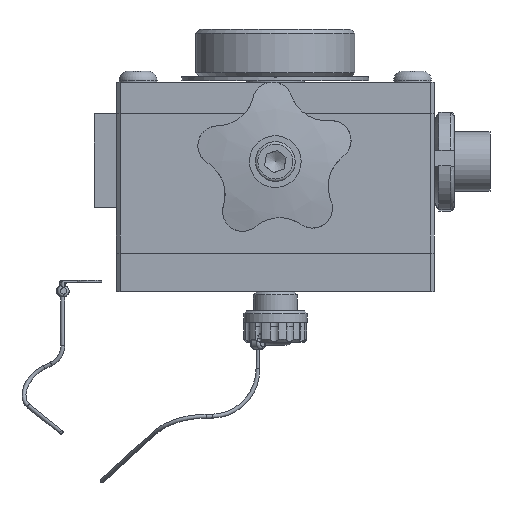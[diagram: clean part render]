
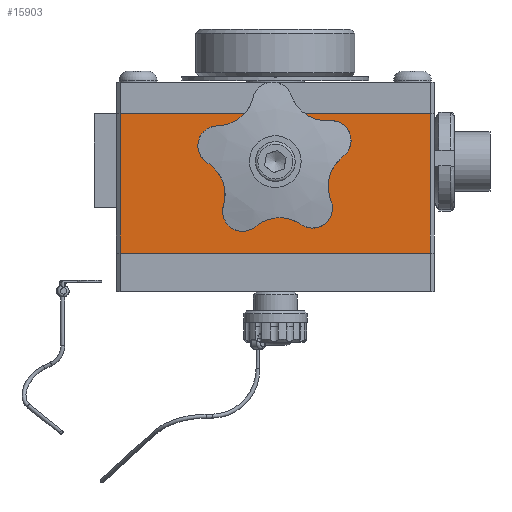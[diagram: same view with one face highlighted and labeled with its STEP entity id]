
A CAD part, left-side view. The second image highlights one B-rep face of the part: STEP entity #15903.
In plain terms, the highlighted planar face has unit normal (-1, 0, 0) as drawn and (0, 0, 1) by its records, which use the part's own axes.
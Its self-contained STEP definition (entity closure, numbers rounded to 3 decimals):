
#1066=FACE_BOUND('',#2786,.T.);
#1250=PLANE('',#17528);
#1854=FACE_OUTER_BOUND('',#2785,.T.);
#2785=EDGE_LOOP('',(#11417,#11418,#11419,#11420));
#2786=EDGE_LOOP('',(#11421));
#3865=LINE('',#23743,#5286);
#3878=LINE('',#23773,#5299);
#3879=LINE('',#23776,#5300);
#3880=LINE('',#23777,#5301);
#5286=VECTOR('',#19270,10.);
#5299=VECTOR('',#19297,10.);
#5300=VECTOR('',#19300,10.);
#5301=VECTOR('',#19301,10.);
#6717=CIRCLE('',#17529,6.959);
#7357=VERTEX_POINT('',#23740);
#7358=VERTEX_POINT('',#23742);
#7368=VERTEX_POINT('',#23771);
#7369=VERTEX_POINT('',#23775);
#7370=VERTEX_POINT('',#23778);
#8967=EDGE_CURVE('',#7358,#7357,#3865,.T.);
#8985=EDGE_CURVE('',#7368,#7357,#3878,.T.);
#8986=EDGE_CURVE('',#7368,#7369,#3879,.T.);
#8987=EDGE_CURVE('',#7358,#7369,#3880,.T.);
#8988=EDGE_CURVE('',#7370,#7370,#6717,.T.);
#11417=ORIENTED_EDGE('',*,*,#8985,.F.);
#11418=ORIENTED_EDGE('',*,*,#8986,.T.);
#11419=ORIENTED_EDGE('',*,*,#8987,.F.);
#11420=ORIENTED_EDGE('',*,*,#8967,.T.);
#11421=ORIENTED_EDGE('',*,*,#8988,.T.);
#15903=ADVANCED_FACE('',(#1854,#1066),#1250,.T.);
#17528=AXIS2_PLACEMENT_3D('',#23774,#19298,#19299);
#17529=AXIS2_PLACEMENT_3D('',#23779,#19302,#19303);
#19270=DIRECTION('',(-1.,0.,0.));
#19297=DIRECTION('',(0.,1.,0.));
#19298=DIRECTION('center_axis',(0.,0.,
1.));
#19299=DIRECTION('ref_axis',(1.,0.,0.));
#19300=DIRECTION('',(1.,0.,0.));
#19301=DIRECTION('',(0.,-1.,0.));
#19302=DIRECTION('center_axis',(0.,0.,
-1.));
#19303=DIRECTION('ref_axis',(-1.,0.,0.));
#23740=CARTESIAN_POINT('',(-39.,17.5,90.));
#23742=CARTESIAN_POINT('',(39.,17.5,90.));
#23743=CARTESIAN_POINT('',(-40.,17.5,90.));
#23771=CARTESIAN_POINT('',(-39.,-17.5,90.));
#23773=CARTESIAN_POINT('',(-39.,8.75,90.));
#23774=CARTESIAN_POINT('Origin',(0.,0.,
90.));
#23775=CARTESIAN_POINT('',(39.,-17.5,90.));
#23776=CARTESIAN_POINT('',(40.,-17.5,90.));
#23777=CARTESIAN_POINT('',(39.,-8.75,90.));
#23778=CARTESIAN_POINT('',(6.959,5.5,90.));
#23779=CARTESIAN_POINT('Origin',(0.,5.5,
90.));
